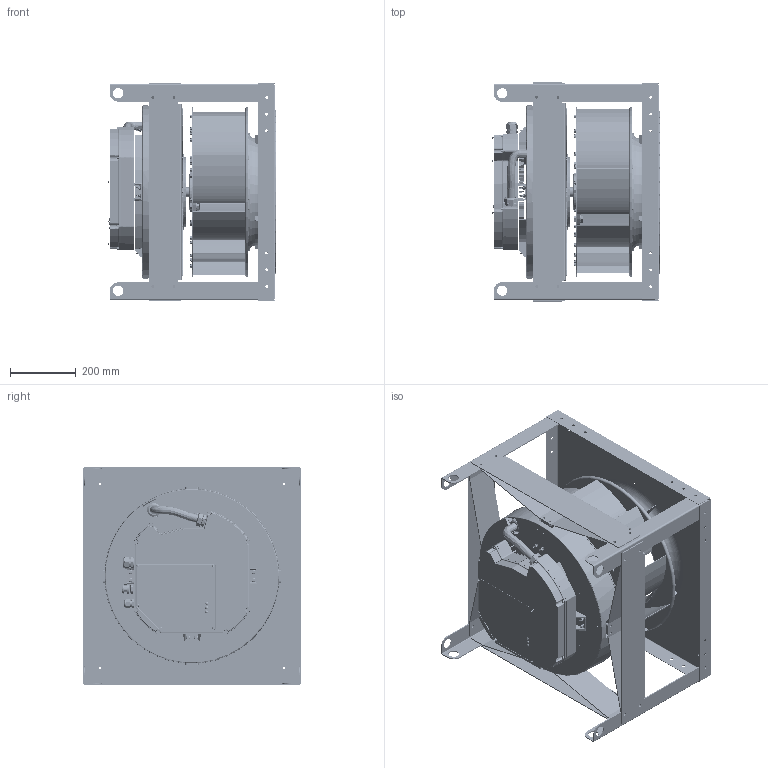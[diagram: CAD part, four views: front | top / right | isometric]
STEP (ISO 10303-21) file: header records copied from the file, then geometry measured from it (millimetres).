
FILE_DESCRIPTION (( 'STEP AP214' ), '1' );
FILE_NAME ('655770.STEP', '2026-04-07T20:26:30', ( '' ), ( '' ), 'SwSTEP 2.0', 'SolidWorks 2023', '' );
FILE_SCHEMA (( 'AUTOMOTIVE_DESIGN' ));
Length unit declared in the file: inch
Products named in the file (19): 651592_651592; 925959CS_925959CS; 655770; 941768_941768; 651591_651591; SXPI STRAP_651579; SXP20 FP_651397; 651583_651583; 941153_941153; SXP20 WHEEL WELDMENT_655575; SXP20 WHEEL ASSY_655590; SXP20 BLADE_651395; 941156_941156; 941044_941044; 941770_BUSHING  TB2012 X 1.125; SXP20 INLET_651415; SXP20 INLET ASSY_655569; SXP20 BAFFLE_651420; SXP20 BP_651398
Assembly tree (83 placements, depth 4):
  655770
    651591_651591
    SXP20 INLET ASSY_655569
      SXP20 INLET_651415
      SXP20 BAFFLE_651420  x4
    SXP20 WHEEL ASSY_655590
      SXP20 WHEEL WELDMENT_655575
        SXP20 FP_651397
        SXP20 BLADE_651395  x9
        SXP20 BP_651398
        941044_941044  x36
      941153_941153  x6
      941156_941156  x6
      941768_941768
    925959CS_925959CS
    651592_651592  x4
    941770_BUSHING  TB2012 X 1.125
    651583_651583  x4
    SXPI STRAP_651579  x4
Bounding box: 507.13 x 663.7 x 663.7 mm (x, y, z)
Volume: 6268356.5 mm3; surface area: 5871364.7 mm2
Topology: 79 solids, 371 shells, 7097 faces, 21076 edges, 14204 vertices
Faces by surface type: plane 2796, cylinder 1714, bspline 1439, cone 782, torus 298, sphere 68
Full cylindrical faces by diameter (mm): 2.9 x2, 3.962 x10, 4.762 x4, 4.763 x14, 5.105 x16, 6 x37, 6.35 x36, 7 x5, 7.137 x16, 7.544 x1, 7.937 x3, 7.938 x1, 8.5 x1, 8.738 x87, 9 x4, 9.525 x12, 9.73 x8, 10 x8, 10.1 x1, 11.8 x16, 12.5 x1, 12.6 x1, 13 x15, 13.208 x36, 14 x1, 14.097 x6, 17.462 x2, 17.463 x2, 19.05 x6, 20.32 x10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
Entity records: 277365 total; most frequent: CARTESIAN_POINT 182624, ORIENTED_EDGE 18686, DIRECTION 17029, EDGE_CURVE 11731, VERTEX_POINT 8398, AXIS2_PLACEMENT_3D 6821, EDGE_LOOP 4852, FACE_OUTER_BOUND 4116
